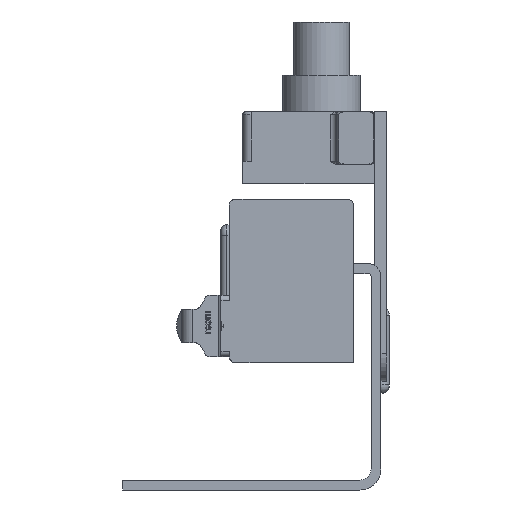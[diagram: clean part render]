
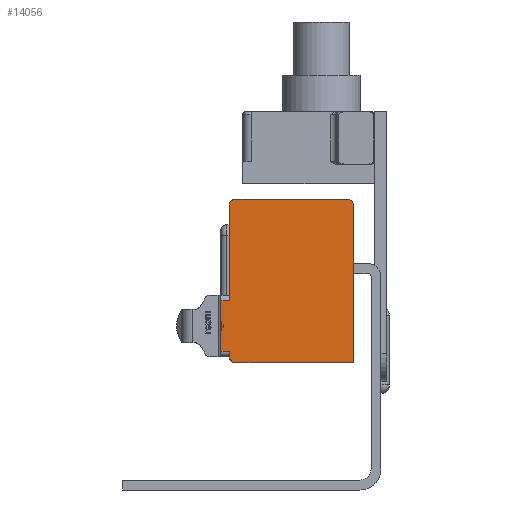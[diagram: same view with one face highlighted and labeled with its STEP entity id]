
A CAD part, left-side view. The second image highlights one B-rep face of the part: STEP entity #14056.
In plain terms, the highlighted planar face has unit normal (-1, 0, 0).
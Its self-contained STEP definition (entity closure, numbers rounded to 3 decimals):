
#40 = CARTESIAN_POINT ( 'NONE',  ( -159.25, 4.9, 542.14 ) ) ;
#44 = DIRECTION ( 'NONE',  ( 0., 0., -1. ) ) ;
#506 = AXIS2_PLACEMENT_3D ( 'NONE', #5611, #5603, #5602 ) ;
#797 = AXIS2_PLACEMENT_3D ( 'NONE', #7932, #7927, #7967 ) ;
#1168 = EDGE_CURVE ( 'NONE', #13275, #13245, #11700, .T. ) ;
#1169 = EDGE_CURVE ( 'NONE', #13282, #13275, #11939, .T. ) ;
#1170 = EDGE_CURVE ( 'NONE', #12992, #13282, #13411, .T. ) ;
#1171 = EDGE_CURVE ( 'NONE', #13096, #12992, #11520, .T. ) ;
#1172 = EDGE_CURVE ( 'NONE', #13245, #13279, #11562, .T. ) ;
#1174 = EDGE_CURVE ( 'NONE', #12990, #13256, #11642, .T. ) ;
#1175 = EDGE_CURVE ( 'NONE', #13256, #13022, #13410, .T. ) ;
#1176 = EDGE_CURVE ( 'NONE', #13279, #12990, #11926, .T. ) ;
#1177 = EDGE_CURVE ( 'NONE', #13022, #13281, #12221, .T. ) ;
#1181 = EDGE_CURVE ( 'NONE', #13281, #13259, #11751, .T. ) ;
#1324 = EDGE_CURVE ( 'NONE', #13259, #13096, #11358, .T. ) ;
#5058 = ORIENTED_EDGE ( 'NONE', *, *, #1176, .F. ) ;
#5068 = ORIENTED_EDGE ( 'NONE', *, *, #1168, .F. ) ;
#5070 = ORIENTED_EDGE ( 'NONE', *, *, #1177, .F. ) ;
#5071 = ORIENTED_EDGE ( 'NONE', *, *, #1175, .F. ) ;
#5072 = ORIENTED_EDGE ( 'NONE', *, *, #1174, .F. ) ;
#5082 = ORIENTED_EDGE ( 'NONE', *, *, #1181, .F. ) ;
#5083 = ORIENTED_EDGE ( 'NONE', *, *, #1172, .F. ) ;
#5118 = ORIENTED_EDGE ( 'NONE', *, *, #1170, .F. ) ;
#5119 = ORIENTED_EDGE ( 'NONE', *, *, #1324, .F. ) ;
#5121 = ORIENTED_EDGE ( 'NONE', *, *, #1169, .F. ) ;
#5125 = ORIENTED_EDGE ( 'NONE', *, *, #1171, .F. ) ;
#5602 = DIRECTION ( 'NONE',  ( 0., 0., -1. ) ) ;
#5603 = DIRECTION ( 'NONE',  ( -1., 0., 0. ) ) ;
#5606 = PLANE ( 'NONE',  #506 ) ;
#5611 = CARTESIAN_POINT ( 'NONE',  ( -159.25, 0., 1001.68 ) ) ;
#5624 = CARTESIAN_POINT ( 'NONE',  ( -159.25, 27., 524.54 ) ) ;
#5651 = CARTESIAN_POINT ( 'NONE',  ( -159.25, 28.5, 534.54 ) ) ;
#5659 = CARTESIAN_POINT ( 'NONE',  ( -159.25, 27., 525.54 ) ) ;
#5669 = CARTESIAN_POINT ( 'NONE',  ( -159.25, 5.9, 552.57 ) ) ;
#5690 = CARTESIAN_POINT ( 'NONE',  ( -159.25, 27., 551.57 ) ) ;
#5694 = CARTESIAN_POINT ( 'NONE',  ( -159.25, 4.9, 551.57 ) ) ;
#5714 = CARTESIAN_POINT ( 'NONE',  ( -159.25, 28.5, 525.54 ) ) ;
#6177 = CARTESIAN_POINT ( 'NONE',  ( -159.25, 4.9, 523.54 ) ) ;
#6473 = CARTESIAN_POINT ( 'NONE',  ( -159.25, 26., 552.57 ) ) ;
#6525 = CARTESIAN_POINT ( 'NONE',  ( -159.25, 26., 523.54 ) ) ;
#6543 = CARTESIAN_POINT ( 'NONE',  ( -159.25, 27., 534.54 ) ) ;
#7584 = EDGE_LOOP ( 'NONE', ( #5082, #5070, #5071, #5072, #5058, #5083, #5068, #5121, #5118, #5125, #5119 ) ) ;
#7927 = DIRECTION ( 'NONE',  ( 1., 0., 0. ) ) ;
#7932 = CARTESIAN_POINT ( 'NONE',  ( -159.25, 5.9, 551.57 ) ) ;
#7952 = DIRECTION ( 'NONE',  ( 0., -1., 0. ) ) ;
#7953 = CARTESIAN_POINT ( 'NONE',  ( -159.25, 26.262, 552.57 ) ) ;
#7958 = DIRECTION ( 'NONE',  ( 0., 0., 1. ) ) ;
#7967 = DIRECTION ( 'NONE',  ( 0., 0., -1. ) ) ;
#7968 = CARTESIAN_POINT ( 'NONE',  ( -159.25, 26.892, 552.092 ) ) ;
#7970 = DIRECTION ( 'NONE',  ( 0., -1., 0. ) ) ;
#7971 = CARTESIAN_POINT ( 'NONE',  ( -159.25, 26., 552.57 ) ) ;
#7975 = CARTESIAN_POINT ( 'NONE',  ( -159.25, 26.522, 552.462 ) ) ;
#7976 = CARTESIAN_POINT ( 'NONE',  ( -159.25, 28.5, 534.54 ) ) ;
#7978 = CARTESIAN_POINT ( 'NONE',  ( -159.25, 27., 551.832 ) ) ;
#7980 = DIRECTION ( 'NONE',  ( 0., 0., 1. ) ) ;
#7983 = CARTESIAN_POINT ( 'NONE',  ( -159.25, 28.5, 552.57 ) ) ;
#7985 = CARTESIAN_POINT ( 'NONE',  ( -159.25, 27., 580.6 ) ) ;
#7994 = DIRECTION ( 'NONE',  ( 0., 1., 0. ) ) ;
#7995 = CARTESIAN_POINT ( 'NONE',  ( -159.25, 27., 524.54 ) ) ;
#7997 = CARTESIAN_POINT ( 'NONE',  ( -159.25, 27., 524.278 ) ) ;
#8004 = CARTESIAN_POINT ( 'NONE',  ( -159.25, 26.892, 524.018 ) ) ;
#8008 = CARTESIAN_POINT ( 'NONE',  ( -159.25, 26., 523.54 ) ) ;
#8009 = CARTESIAN_POINT ( 'NONE',  ( -159.25, 28.5, 523.54 ) ) ;
#8013 = CARTESIAN_POINT ( 'NONE',  ( -159.25, 26.262, 523.54 ) ) ;
#8020 = CARTESIAN_POINT ( 'NONE',  ( -159.25, 26.522, 523.648 ) ) ;
#8029 = CARTESIAN_POINT ( 'NONE',  ( -159.25, 27., 580.6 ) ) ;
#8030 = CARTESIAN_POINT ( 'NONE',  ( -159.25, 27., 551.57 ) ) ;
#8041 = DIRECTION ( 'NONE',  ( 0., 1., 0. ) ) ;
#8063 = CARTESIAN_POINT ( 'NONE',  ( -159.25, 28.5, 580.6 ) ) ;
#8065 = DIRECTION ( 'NONE',  ( 0., 0., 1. ) ) ;
#8068 = CARTESIAN_POINT ( 'NONE',  ( -159.25, 28.5, 525.54 ) ) ;
#9661 = FACE_OUTER_BOUND ( 'NONE', #7584, .T. ) ;
#11294 = VECTOR ( 'NONE', #44, 1000. ) ;
#11358 = LINE ( 'NONE', #40, #11294 ) ;
#11520 = LINE ( 'NONE', #8009, #11812 ) ;
#11521 = VECTOR ( 'NONE', #7980, 1000. ) ;
#11562 = LINE ( 'NONE', #8063, #11837 ) ;
#11623 = VECTOR ( 'NONE', #8041, 1000. ) ;
#11642 = LINE ( 'NONE', #7985, #11521 ) ;
#11700 = LINE ( 'NONE', #8068, #11623 ) ;
#11751 = CIRCLE ( 'NONE', #797, 1. ) ;
#11800 = VECTOR ( 'NONE', #7952, 1000. ) ;
#11812 = VECTOR ( 'NONE', #7994, 1000. ) ;
#11837 = VECTOR ( 'NONE', #7958, 1000. ) ;
#11918 = VECTOR ( 'NONE', #8065, 1000. ) ;
#11926 = LINE ( 'NONE', #7976, #12185 ) ;
#11939 = LINE ( 'NONE', #8029, #11918 ) ;
#12185 = VECTOR ( 'NONE', #7970, 1000. ) ;
#12221 = LINE ( 'NONE', #7983, #11800 ) ;
#12990 = VERTEX_POINT ( 'NONE', #6543 ) ;
#12992 = VERTEX_POINT ( 'NONE', #6525 ) ;
#13022 = VERTEX_POINT ( 'NONE', #6473 ) ;
#13096 = VERTEX_POINT ( 'NONE', #6177 ) ;
#13245 = VERTEX_POINT ( 'NONE', #5714 ) ;
#13256 = VERTEX_POINT ( 'NONE', #5690 ) ;
#13259 = VERTEX_POINT ( 'NONE', #5694 ) ;
#13275 = VERTEX_POINT ( 'NONE', #5659 ) ;
#13279 = VERTEX_POINT ( 'NONE', #5651 ) ;
#13281 = VERTEX_POINT ( 'NONE', #5669 ) ;
#13282 = VERTEX_POINT ( 'NONE', #5624 ) ;
#13410 = B_SPLINE_CURVE_WITH_KNOTS ( 'NONE', 3,
 ( #8030, #7978, #7968, #7975, #7953, #7971 ),
 .UNSPECIFIED., .F., .F.,
 ( 4, 2, 4 ),
 ( 0., 0.5, 1. ),
 .UNSPECIFIED. ) ;
#13411 = B_SPLINE_CURVE_WITH_KNOTS ( 'NONE', 3,
 ( #8008, #8013, #8020, #8004, #7997, #7995 ),
 .UNSPECIFIED., .F., .F.,
 ( 4, 2, 4 ),
 ( 0., 0.5, 1. ),
 .UNSPECIFIED. ) ;
#14056 = ADVANCED_FACE ( 'NONE', ( #9661 ), #5606, .T. ) ;
